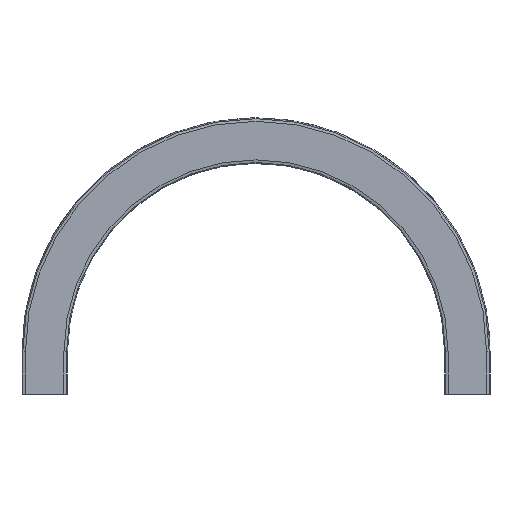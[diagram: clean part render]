
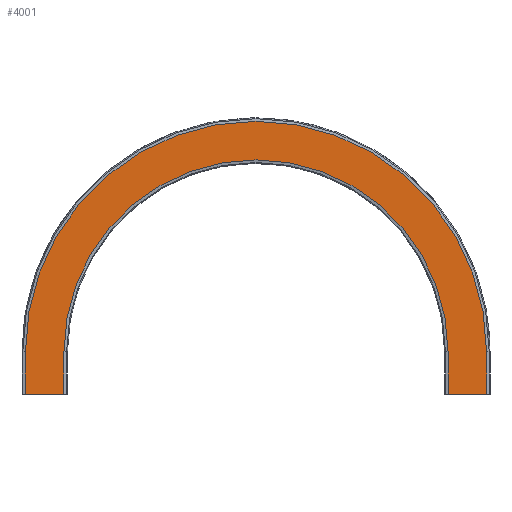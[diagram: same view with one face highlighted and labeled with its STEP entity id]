
A CAD part, front view. The second image highlights one B-rep face of the part: STEP entity #4001.
In plain terms, the highlighted planar face has unit normal (0, -1, 0).
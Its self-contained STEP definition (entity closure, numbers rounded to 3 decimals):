
#431=FACE_OUTER_BOUND('',#655,.T.);
#655=EDGE_LOOP('',(#3657,#3658,#3659,#3660,#3661,#3662,#3663,#3664));
#773=CIRCLE('',#4302,436.5);
#776=CIRCLE('',#4308,363.5);
#1138=LINE('',#7697,#1528);
#1143=LINE('',#7706,#1533);
#1145=LINE('',#7711,#1535);
#1160=LINE('',#7751,#1550);
#1165=LINE('',#7762,#1555);
#1166=LINE('',#7764,#1556);
#1528=VECTOR('',#5215,10.);
#1533=VECTOR('',#5222,10.);
#1535=VECTOR('',#5226,10.);
#1550=VECTOR('',#5267,10.);
#1555=VECTOR('',#5280,10.);
#1556=VECTOR('',#5283,10.);
#1916=VERTEX_POINT('',#7694);
#1917=VERTEX_POINT('',#7696);
#1920=VERTEX_POINT('',#7703);
#1921=VERTEX_POINT('',#7708);
#1931=VERTEX_POINT('',#7734);
#1933=VERTEX_POINT('',#7744);
#1934=VERTEX_POINT('',#7749);
#1936=VERTEX_POINT('',#7760);
#2480=EDGE_CURVE('',#1917,#1916,#1138,.T.);
#2485=EDGE_CURVE('',#1917,#1920,#1143,.T.);
#2487=EDGE_CURVE('',#1916,#1921,#1145,.T.);
#2500=EDGE_CURVE('',#1921,#1931,#773,.T.);
#2506=EDGE_CURVE('',#1920,#1933,#776,.T.);
#2508=EDGE_CURVE('',#1931,#1934,#1160,.T.);
#2513=EDGE_CURVE('',#1933,#1936,#1165,.T.);
#2514=EDGE_CURVE('',#1934,#1936,#1166,.T.);
#3657=ORIENTED_EDGE('',*,*,#2514,.T.);
#3658=ORIENTED_EDGE('',*,*,#2513,.F.);
#3659=ORIENTED_EDGE('',*,*,#2506,.F.);
#3660=ORIENTED_EDGE('',*,*,#2485,.F.);
#3661=ORIENTED_EDGE('',*,*,#2480,.T.);
#3662=ORIENTED_EDGE('',*,*,#2487,.T.);
#3663=ORIENTED_EDGE('',*,*,#2500,.T.);
#3664=ORIENTED_EDGE('',*,*,#2508,.T.);
#3798=PLANE('',#4314);
#4001=ADVANCED_FACE('',(#431),#3798,.T.);
#4302=AXIS2_PLACEMENT_3D('',#7736,#5247,#5248);
#4308=AXIS2_PLACEMENT_3D('',#7747,#5262,#5263);
#4314=AXIS2_PLACEMENT_3D('',#7763,#5281,#5282);
#5215=DIRECTION('',(1.,0.,0.));
#5222=DIRECTION('',(0.,0.,1.));
#5226=DIRECTION('',(0.,0.,1.));
#5247=DIRECTION('center_axis',(0.,-1.,0.));
#5248=DIRECTION('ref_axis',(1.,0.,0.));
#5262=DIRECTION('center_axis',(0.,-1.,0.));
#5263=DIRECTION('ref_axis',(1.,0.,0.));
#5267=DIRECTION('',(0.,0.,-1.));
#5280=DIRECTION('',(0.,0.,-1.));
#5281=DIRECTION('center_axis',(0.,-1.,0.));
#5282=DIRECTION('ref_axis',(0.,0.,
1.));
#5283=DIRECTION('',(1.,0.,0.));
#7694=CARTESIAN_POINT('',(36.5,-11.,0.));
#7696=CARTESIAN_POINT('',(-36.5,-11.,0.));
#7697=CARTESIAN_POINT('',(-36.5,-11.,0.));
#7703=CARTESIAN_POINT('',(-36.5,-11.,80.));
#7706=CARTESIAN_POINT('',(-36.5,-11.,0.));
#7708=CARTESIAN_POINT('',(36.5,-11.,80.));
#7711=CARTESIAN_POINT('',(36.5,-11.,0.));
#7734=CARTESIAN_POINT('',(-836.5,-11.,80.));
#7736=CARTESIAN_POINT('Origin',(-400.,-11.,80.));
#7744=CARTESIAN_POINT('',(-763.5,-11.,80.));
#7747=CARTESIAN_POINT('Origin',(-400.,-11.,80.));
#7749=CARTESIAN_POINT('',(-836.5,-11.,0.));
#7751=CARTESIAN_POINT('',(-836.5,-11.,1416.637));
#7760=CARTESIAN_POINT('',(-763.5,-11.,0.));
#7762=CARTESIAN_POINT('',(-763.5,-11.,1416.637));
#7763=CARTESIAN_POINT('Origin',(-836.5,-11.,1416.637));
#7764=CARTESIAN_POINT('',(-819.75,-11.,0.));
